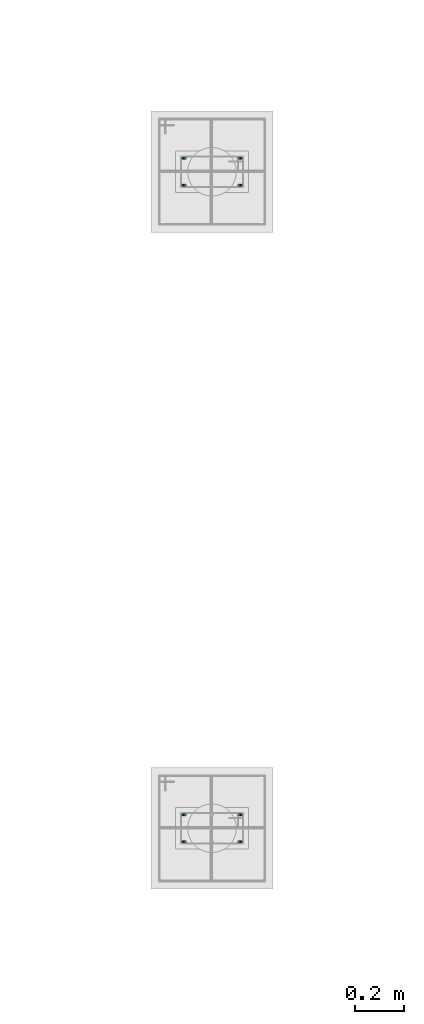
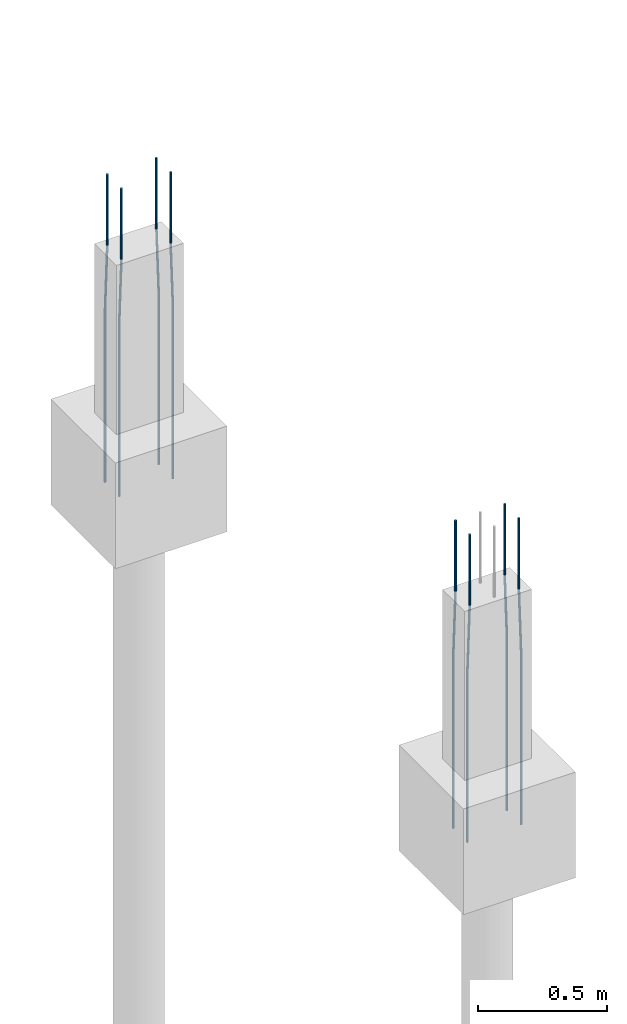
# One storey, part 38 of 119: 8 reinforcing bars.
"""IFC4 building model written with IfcOpenShell, lengths in centimetres."""

from ifc_helpers import new_model, entity, si_unit, derived_unit, frame, origin_with_axes, place, context, project, spatial, element, save


model = new_model("IFC4")

# Units and contexts
model_context = context("Model", 3, precision=1e-05, world=origin_with_axes(), identifier="Body")
ifc_project = project(units=[si_unit("LENGTHUNIT", "METRE", prefix="CENTI"), si_unit("VOLUMEUNIT", "CUBIC_METRE"), si_unit("AREAUNIT", "SQUARE_METRE"), si_unit("POWERUNIT", "WATT"), si_unit("LUMINOUSFLUXUNIT", "LUMEN"), si_unit("ELECTRICCURRENTUNIT", "AMPERE"), si_unit("PRESSUREUNIT", "PASCAL", prefix="KILO"), si_unit("MASSUNIT", "GRAM", prefix="KILO"), si_unit("PLANEANGLEUNIT", "RADIAN"), derived_unit("VOLUMETRICFLOWRATEUNIT", [(si_unit("LENGTHUNIT", "METRE"), 3), (si_unit("TIMEUNIT", "SECOND"), -1)])], contexts=[model_context])

# Site, building, storey
site_placement = place(None, frame((-4000.0, 0.0, 0.0), z_axis=(0.0, 0.0, 1.0), x_axis=(1.0, 0.0, 0.0)))
site = spatial("IfcSite", under=ifc_project, at=site_placement, Name="PADRÃO")
building_placement = place(site_placement, frame((0.0, 0.0, -14.0)))
building = spatial("IfcBuilding", under=site, at=building_placement, Name="CRECHE PRÉ-ESCOLA TIPO 2")
storey_placement = place(building_placement, origin_with_axes())
storey = spatial("IfcBuildingStorey", under=building, at=storey_placement, Name="FUNDAÇÃO", CompositionType="ELEMENT", Elevation=-14.0)

# Reinforcing bars
reinforcing_bar_1_placement = place(storey_placement, frame((3361.0, 1294.59, 33.3573001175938), z_axis=(0.0, 0.0, 1.0), x_axis=(1.0, 0.0, 0.0)))
element("IfcReinforcingBar", 1, at=reinforcing_bar_1_placement, inside=storey, Name="P113 - Longitudinal", BarLength=0.0, CrossSectionArea=7.853981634e-05, NominalDiameter=1.0, PredefinedType="MAIN", context=model_context, shape_type="AdvancedSweptSolid", body=[
    entity("IfcSweptDiskSolid", entity("IfcCompositeCurve", [entity("IfcCompositeCurveSegment", "CONTINUOUS", True, entity("IfcPolyline", [entity("IfcCartesianPoint", [-0.5, 0.0, -145.357300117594]), entity("IfcCartesianPoint", [-0.5, 0.0, -63.3573001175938])])), entity("IfcCompositeCurveSegment", "CONTINUOUS", True, entity("IfcPolyline", [entity("IfcCartesianPoint", [-0.5, 0.0, -63.3573001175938]), entity("IfcCartesianPoint", [0.5, 0.0, -33.3573001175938])])), entity("IfcCompositeCurveSegment", "CONTINUOUS", True, entity("IfcPolyline", [entity("IfcCartesianPoint", [0.5, 0.0, -33.3573001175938]), entity("IfcCartesianPoint", [0.5, 0.0, 0.0])]))], False), 0.5),
])
for number, where, z_axis, x_axis, name in (
    (2, (3384.0, 1294.59, 33.3573001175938), (0.0, 0.0, 1.0), (1.0, 0.0, 0.0), "P113 - Longitudinal"),
    (3, (3384.0, 1305.59, 33.3573001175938), (0.0, 0.0, 1.0), (1.0, 0.0, 0.0), "P113 - Longitudinal"),
):
    element("IfcReinforcingBar", number, at=place(storey_placement, frame(where, z_axis=z_axis, x_axis=x_axis)), inside=storey, Name=name, BarLength=0.0, CrossSectionArea=7.853981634e-05, NominalDiameter=1.0, PredefinedType="MAIN", context=model_context, shape_type="AdvancedSweptSolid", body=[
        entity("IfcSweptDiskSolid", entity("IfcCompositeCurve", [entity("IfcCompositeCurveSegment", "CONTINUOUS", True, entity("IfcPolyline", [entity("IfcCartesianPoint", [0.5, 0.0, -145.357300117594]), entity("IfcCartesianPoint", [0.5, 0.0, -63.3573001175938])])), entity("IfcCompositeCurveSegment", "CONTINUOUS", True, entity("IfcPolyline", [entity("IfcCartesianPoint", [0.5, 0.0, -63.3573001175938]), entity("IfcCartesianPoint", [-0.5, 0.0, -33.3573001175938])])), entity("IfcCompositeCurveSegment", "CONTINUOUS", True, entity("IfcPolyline", [entity("IfcCartesianPoint", [-0.5, 0.0, -33.3573001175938]), entity("IfcCartesianPoint", [-0.5, 0.0, 0.0])]))], False), 0.5),
    ])
reinforcing_bar_2_placement = place(storey_placement, frame((3361.0, 1305.59, 33.3573001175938), z_axis=(0.0, 0.0, 1.0), x_axis=(1.0, 0.0, 0.0)))
element("IfcReinforcingBar", 4, at=reinforcing_bar_2_placement, inside=storey, Name="P113 - Longitudinal", BarLength=0.0, CrossSectionArea=7.853981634e-05, NominalDiameter=1.0, PredefinedType="MAIN", context=model_context, shape_type="AdvancedSweptSolid", body=[
    entity("IfcSweptDiskSolid", entity("IfcCompositeCurve", [entity("IfcCompositeCurveSegment", "CONTINUOUS", True, entity("IfcPolyline", [entity("IfcCartesianPoint", [-0.5, 0.0, -145.357300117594]), entity("IfcCartesianPoint", [-0.5, 0.0, -63.3573001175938])])), entity("IfcCompositeCurveSegment", "CONTINUOUS", True, entity("IfcPolyline", [entity("IfcCartesianPoint", [-0.5, 0.0, -63.3573001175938]), entity("IfcCartesianPoint", [0.5, 0.0, -33.3573001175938])])), entity("IfcCompositeCurveSegment", "CONTINUOUS", True, entity("IfcPolyline", [entity("IfcCartesianPoint", [0.5, 0.0, -33.3573001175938]), entity("IfcCartesianPoint", [0.5, 0.0, 0.0])]))], False), 0.5),
])
for number, where, z_axis, x_axis, name in (
    (5, (3384.0, 1035.58, 33.3573001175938), (0.0, 0.0, 1.0), (1.0, 0.0, 0.0), "P124 - Longitudinal"),
    (6, (3384.0, 1024.58, 33.3573001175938), (0.0, 0.0, 1.0), (1.0, 0.0, 0.0), "P124 - Longitudinal"),
):
    element("IfcReinforcingBar", number, at=place(storey_placement, frame(where, z_axis=z_axis, x_axis=x_axis)), inside=storey, Name=name, BarLength=0.0, CrossSectionArea=7.853981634e-05, NominalDiameter=1.0, PredefinedType="MAIN", context=model_context, shape_type="AdvancedSweptSolid", body=[
        entity("IfcSweptDiskSolid", entity("IfcCompositeCurve", [entity("IfcCompositeCurveSegment", "CONTINUOUS", True, entity("IfcPolyline", [entity("IfcCartesianPoint", [0.5, 0.0, -145.357300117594]), entity("IfcCartesianPoint", [0.5, 0.0, -63.3573001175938])])), entity("IfcCompositeCurveSegment", "CONTINUOUS", True, entity("IfcPolyline", [entity("IfcCartesianPoint", [0.5, 0.0, -63.3573001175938]), entity("IfcCartesianPoint", [-0.5, 0.0, -33.3573001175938])])), entity("IfcCompositeCurveSegment", "CONTINUOUS", True, entity("IfcPolyline", [entity("IfcCartesianPoint", [-0.5, 0.0, -33.3573001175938]), entity("IfcCartesianPoint", [-0.5, 0.0, 0.0])]))], False), 0.5),
    ])
for number, where, z_axis, x_axis, name in (
    (7, (3361.0, 1024.58, 33.3573001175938), (0.0, 0.0, 1.0), (1.0, 0.0, 0.0), "P124 - Longitudinal"),
    (8, (3361.0, 1035.58, 33.3573001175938), (0.0, 0.0, 1.0), (1.0, 0.0, 0.0), "P124 - Longitudinal"),
):
    element("IfcReinforcingBar", number, at=place(storey_placement, frame(where, z_axis=z_axis, x_axis=x_axis)), inside=storey, Name=name, BarLength=0.0, CrossSectionArea=7.853981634e-05, NominalDiameter=1.0, PredefinedType="MAIN", context=model_context, shape_type="AdvancedSweptSolid", body=[
        entity("IfcSweptDiskSolid", entity("IfcCompositeCurve", [entity("IfcCompositeCurveSegment", "CONTINUOUS", True, entity("IfcPolyline", [entity("IfcCartesianPoint", [-0.5, 0.0, -145.357300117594]), entity("IfcCartesianPoint", [-0.5, 0.0, -63.3573001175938])])), entity("IfcCompositeCurveSegment", "CONTINUOUS", True, entity("IfcPolyline", [entity("IfcCartesianPoint", [-0.5, 0.0, -63.3573001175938]), entity("IfcCartesianPoint", [0.5, 0.0, -33.3573001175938])])), entity("IfcCompositeCurveSegment", "CONTINUOUS", True, entity("IfcPolyline", [entity("IfcCartesianPoint", [0.5, 0.0, -33.3573001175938]), entity("IfcCartesianPoint", [0.5, 0.0, 0.0])]))], False), 0.5),
    ])

save(model, "model.ifc")
